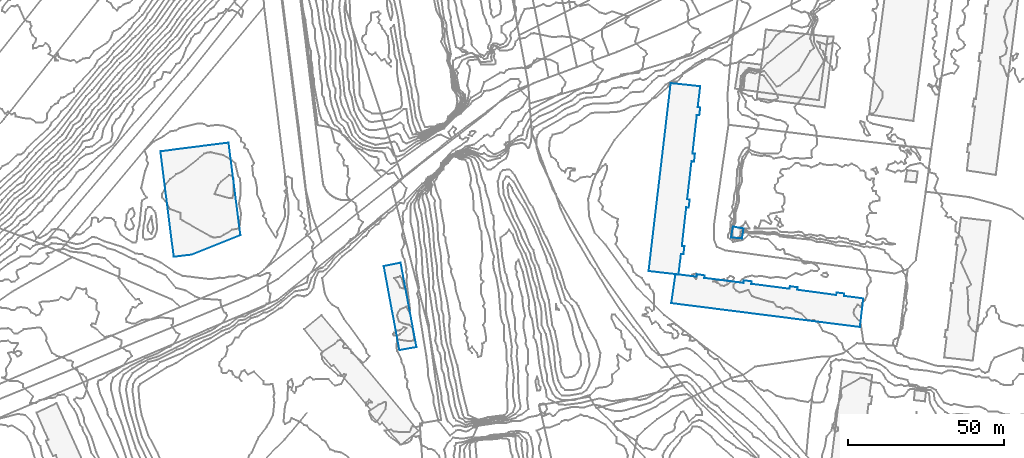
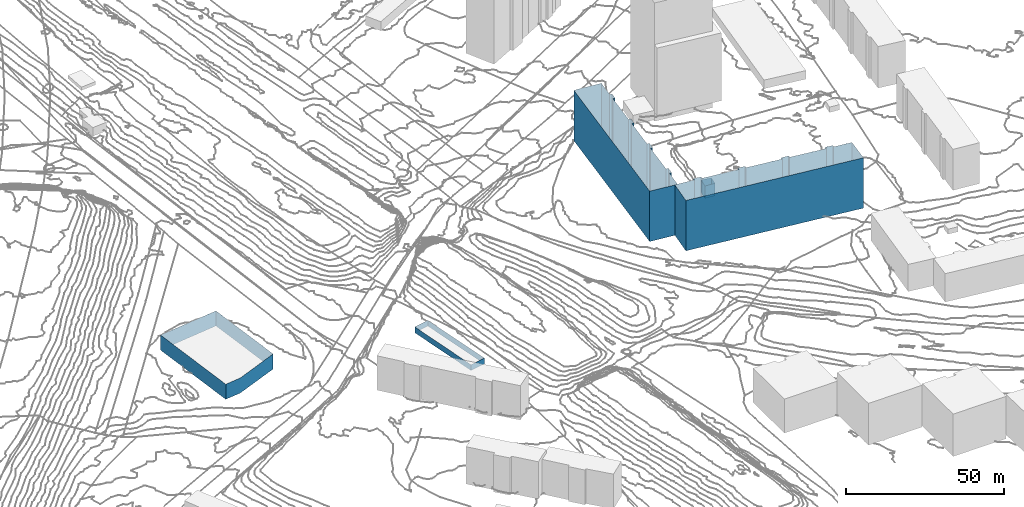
# Not in any storey, part 31 of 419: 5 walls.
"""IFC2X3 model written with IfcOpenShell, lengths in metres."""

from ifc_helpers import new_model, si_unit, frame, origin_with_axes, place, context, subcontext, project, faceted_brep, element, save


model = new_model("IFC2X3")

# Units and contexts
model_context = context("Model", 3, precision=1e-05, world=origin_with_axes())
body_context = subcontext(model_context, "Body", "Model", "MODEL_VIEW")
ifc_project = project(units=[si_unit("AREAUNIT", "SQUARE_METRE"), si_unit("LENGTHUNIT", "METRE")], contexts=[model_context])

# Walls
wall_1_placement = place(None, frame((261.1920204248, 673.8976909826, 29.2109998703), z_axis=(0.0, 0.0, 1.0), x_axis=(1.0, 0.0, 0.0)))
element("IfcWall", 1, at=wall_1_placement, Name="Mur 0", context=body_context, shape_type="Brep", body=[
    faceted_brep([(1.3, 9.0999999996, 19.4890001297), (2.3, 9.2000000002, 19.4890001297), (1.3, 9.0999999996, 0.0), (2.3, 9.2000000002, 0.0), (0.0, 0.0, 19.4890001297), (0.0, 0.0, 0.0), (60.6, -7.7000000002, 19.4890001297), (60.6, -7.7000000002, 0.0), (61.7000000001, 1.5, 19.4890001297), (61.7000000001, 1.5, 0.0), (55.5, 2.2999999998, 19.4890001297), (55.5, 2.2999999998, 0.0), (55.6, 3.0999999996, 19.4890001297), (55.6, 3.0999999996, 0.0), (53.1, 3.4000000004, 19.4890001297), (53.1, 3.4000000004, 0.0), (53.0, 2.5999999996, 19.4890001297), (53.0, 2.5999999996, 0.0), (40.5, 4.2999999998, 19.4890001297), (40.5, 4.2999999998, 0.0), (40.6, 5.0999999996, 19.4890001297), (40.6, 5.0999999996, 0.0), (38.1, 5.4000000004, 19.4890001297), (38.1, 5.4000000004, 0.0), (38.0, 4.5999999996, 19.4890001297), (38.0, 4.5999999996, 0.0), (25.7000000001, 6.2000000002, 19.4890001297), (25.7000000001, 6.2000000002, 0.0), (25.8, 7.0, 19.4890001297), (25.8, 7.0, 0.0), (23.3, 7.2999999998, 19.4890001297), (23.3, 7.2999999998, 0.0), (23.2000000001, 6.5, 19.4890001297), (23.2000000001, 6.5, 0.0), (10.6, 8.0999999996, 19.4890001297), (10.6, 8.0999999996, 0.0), (10.7000000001, 8.9000000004, 19.4890001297), (10.7000000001, 8.9000000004, 0.0), (8.2000000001, 9.2999999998, 19.4890001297), (8.2000000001, 9.2999999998, 0.0), (8.1, 8.5, 19.4890001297), (8.1, 8.5, 0.0)], [[[0, 1, 2]], [[2, 1, 3]], [[4, 0, 5]], [[5, 0, 2]], [[6, 4, 7]], [[7, 4, 5]], [[8, 6, 9]], [[9, 6, 7]], [[10, 8, 11]], [[11, 8, 9]], [[12, 10, 13]], [[13, 10, 11]], [[14, 12, 15]], [[15, 12, 13]], [[16, 14, 17]], [[17, 14, 15]], [[18, 16, 19]], [[19, 16, 17]], [[20, 18, 21]], [[21, 18, 19]], [[22, 20, 23]], [[23, 20, 21]], [[24, 22, 25]], [[25, 22, 23]], [[26, 24, 27]], [[27, 24, 25]], [[28, 26, 29]], [[29, 26, 27]], [[30, 28, 31]], [[31, 28, 29]], [[32, 30, 33]], [[33, 30, 31]], [[34, 32, 35]], [[35, 32, 33]], [[36, 34, 37]], [[37, 34, 35]], [[38, 36, 39]], [[39, 36, 37]], [[1, 40, 3]], [[3, 40, 41]], [[40, 38, 41]], [[41, 38, 39]]]),
])
wall_2_placement = place(None, frame((280.3920204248, 694.9976909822, 29.9621998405), z_axis=(0.0, 0.0, 1.0), x_axis=(1.0, 0.0, 0.0)))
element("IfcWall", 2, at=wall_2_placement, Name="Mur 0", context=body_context, shape_type="Brep", body=[
    faceted_brep([(3.5, -0.2999999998, 4.8378001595), (0.0, 0.0, 4.8378001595), (3.5, -0.2999999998, 0.0), (0.0, 0.0, 0.0), (4.0, 2.9000000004, 4.8378001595), (4.0, 2.9000000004, 0.0), (0.6, 3.5, 4.8378001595), (0.6, 3.5, 0.0)], [[[0, 1, 2]], [[2, 1, 3]], [[4, 0, 5]], [[5, 0, 2]], [[1, 6, 3]], [[3, 6, 7]], [[6, 4, 7]], [[7, 4, 5]]]),
])
wall_3_placement = place(None, frame((168.7920204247, 685.7976909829, 22.6524004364), z_axis=(0.0, 0.0, 1.0), x_axis=(1.0, 0.0, 0.0)))
element("IfcWall", 3, at=wall_3_placement, Name="Mur 0", context=body_context, shape_type="Brep", body=[
    faceted_brep([(5.0, -27.0, 2.2475995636), (0.0, 0.0, 2.2475995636), (5.0, -27.0, 0.0), (0.0, 0.0, 0.0), (10.5, -26.0, 2.2475995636), (10.5, -26.0, 0.0), (5.4, 1.0999999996, 2.2475995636), (5.4, 1.0999999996, 0.0)], [[[0, 1, 2]], [[2, 1, 3]], [[4, 0, 5]], [[5, 0, 2]], [[1, 6, 3]], [[3, 6, 7]], [[6, 4, 7]], [[7, 4, 5]]]),
])
wall_4_placement = place(None, frame((253.8920204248, 684.1976909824, 29.122400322), z_axis=(0.0, 0.0, 1.0), x_axis=(1.0, 0.0, 0.0)))
element("IfcWall", 4, at=wall_4_placement, Name="Mur 0", context=body_context, shape_type="Brep", body=[
    faceted_brep([(10.3999999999, 5.5, 19.477599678), (9.6, -1.0999999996, 19.477599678), (10.3999999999, 5.5, 0.0), (9.6, -1.0999999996, 0.0), (11.2, 5.4000000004, 19.477599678), (11.2, 5.4000000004, 0.0), (11.5, 8.0, 19.477599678), (11.5, 8.0, 0.0), (10.7, 8.1000000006, 19.477599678), (10.7, 8.1000000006, 0.0), (12.1, 20.5, 19.477599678), (12.1, 20.5, 0.0), (12.8999999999, 20.4000000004, 19.477599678), (12.8999999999, 20.4000000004, 0.0), (13.2, 23.0, 19.477599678), (13.2, 23.0, 0.0), (12.3999999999, 23.1000000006, 19.477599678), (12.3999999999, 23.1000000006, 0.0), (13.7999999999, 35.2999999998, 19.477599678), (13.7999999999, 35.2999999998, 0.0), (14.6, 35.2000000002, 19.477599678), (14.6, 35.2000000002, 0.0), (14.8999999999, 37.7000000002, 19.477599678), (14.8999999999, 37.7000000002, 0.0), (14.1, 37.7999999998, 19.477599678), (14.1, 37.7999999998, 0.0), (15.5, 50.2000000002, 19.477599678), (15.5, 50.2000000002, 0.0), (16.2999999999, 50.1000000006, 19.477599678), (16.2999999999, 50.1000000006, 0.0), (16.6, 52.6000000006, 19.477599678), (16.6, 52.6000000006, 0.0), (15.7999999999, 52.7000000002, 19.477599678), (15.7999999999, 52.7000000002, 0.0), (16.6, 59.4000000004, 19.477599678), (16.6, 59.4000000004, 0.0), (7.1, 60.4000000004, 19.477599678), (7.1, 60.4000000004, 0.0), (0.0, 0.0, 19.477599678), (0.0, 0.0, 0.0)], [[[0, 1, 2]], [[2, 1, 3]], [[4, 0, 5]], [[5, 0, 2]], [[6, 4, 7]], [[7, 4, 5]], [[8, 6, 9]], [[9, 6, 7]], [[10, 8, 11]], [[11, 8, 9]], [[12, 10, 13]], [[13, 10, 11]], [[14, 12, 15]], [[15, 12, 13]], [[16, 14, 17]], [[17, 14, 15]], [[18, 16, 19]], [[19, 16, 17]], [[20, 18, 21]], [[21, 18, 19]], [[22, 20, 23]], [[23, 20, 21]], [[24, 22, 25]], [[25, 22, 23]], [[26, 24, 27]], [[27, 24, 25]], [[28, 26, 29]], [[29, 26, 27]], [[30, 28, 31]], [[31, 28, 29]], [[32, 30, 33]], [[33, 30, 31]], [[34, 32, 35]], [[35, 32, 33]], [[36, 34, 37]], [[37, 34, 35]], [[1, 38, 3]], [[3, 38, 39]], [[38, 36, 39]], [[39, 36, 37]]]),
])
wall_5_placement = place(None, frame((96.9920204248, 722.6976909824, 18.6733999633), z_axis=(0.0, 0.0, 1.0), x_axis=(1.0, 0.0, 0.0)))
element("IfcWall", 5, at=wall_5_placement, Name="Mur 0", context=body_context, shape_type="Brep", body=[
    faceted_brep([(4.2999999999, -33.8999999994, 5.8266000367), (0.0, 0.0, 5.8266000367), (4.2999999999, -33.8999999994, 0.0), (0.0, 0.0, 0.0), (10.0, -33.2000000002, 5.8266000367), (10.0, -33.2000000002, 0.0), (25.7, -26.8999999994, 5.8266000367), (25.7, -26.8999999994, 0.0), (21.9, 2.7999999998, 5.8266000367), (21.9, 2.7999999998, 0.0)], [[[0, 1, 2]], [[2, 1, 3]], [[4, 0, 5]], [[5, 0, 2]], [[6, 4, 7]], [[7, 4, 5]], [[1, 8, 3]], [[3, 8, 9]], [[8, 6, 9]], [[9, 6, 7]]]),
])

save(model, "model.ifc")
